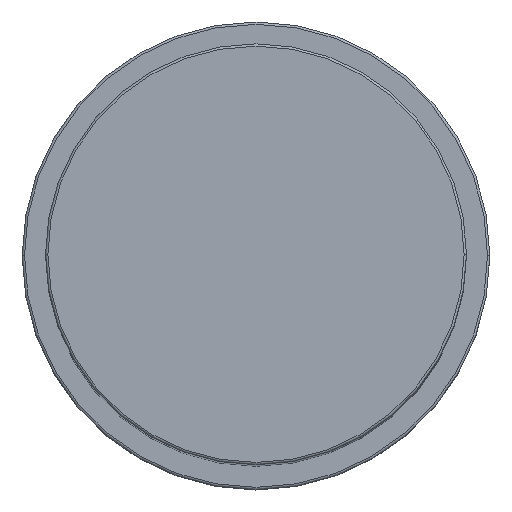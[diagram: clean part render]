
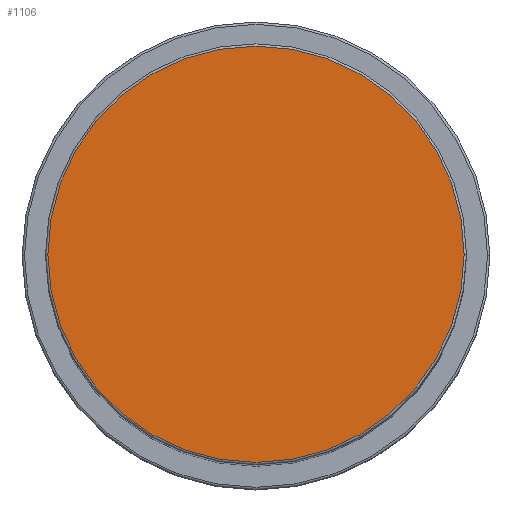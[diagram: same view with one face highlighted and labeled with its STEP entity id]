
A CAD part, top view. The second image highlights one B-rep face of the part: STEP entity #1106.
In plain terms, the highlighted planar face has unit normal (0, 0, 1).
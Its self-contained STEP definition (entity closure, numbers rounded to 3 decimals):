
#26 = DIRECTION ( 'NONE',  ( 1., 0., 0. ) ) ;
#113 = EDGE_CURVE ( 'NONE', #490, #1963, #1276, .T. ) ;
#160 = PLANE ( 'NONE',  #759 ) ;
#163 = EDGE_CURVE ( 'NONE', #1963, #490, #956, .T. ) ;
#279 = DIRECTION ( 'NONE',  ( 1., 0., 0. ) ) ;
#294 = AXIS2_PLACEMENT_3D ( 'NONE', #1734, #1242, #1863 ) ;
#302 = DIRECTION ( 'NONE',  ( 0., 0., 1. ) ) ;
#352 = CARTESIAN_POINT ( 'NONE',  ( 0., 0., 209. ) ) ;
#395 = CARTESIAN_POINT ( 'NONE',  ( 44.5, 0., 209. ) ) ;
#490 = VERTEX_POINT ( 'NONE', #585 ) ;
#574 = ORIENTED_EDGE ( 'NONE', *, *, #113, .T. ) ;
#585 = CARTESIAN_POINT ( 'NONE',  ( -44.5, 0., 209. ) ) ;
#612 = AXIS2_PLACEMENT_3D ( 'NONE', #2024, #302, #279 ) ;
#720 = EDGE_LOOP ( 'NONE', ( #1359, #574 ) ) ;
#759 = AXIS2_PLACEMENT_3D ( 'NONE', #352, #1792, #26 ) ;
#956 = CIRCLE ( 'NONE', #612, 44.5 ) ;
#1106 = ADVANCED_FACE ( 'NONE', ( #1517 ), #160, .T. ) ;
#1242 = DIRECTION ( 'NONE',  ( 0., 0., 1. ) ) ;
#1276 = CIRCLE ( 'NONE', #294, 44.5 ) ;
#1359 = ORIENTED_EDGE ( 'NONE', *, *, #163, .T. ) ;
#1517 = FACE_OUTER_BOUND ( 'NONE', #720, .T. ) ;
#1734 = CARTESIAN_POINT ( 'NONE',  ( 0., 0., 209. ) ) ;
#1792 = DIRECTION ( 'NONE',  ( 0., 0., 1. ) ) ;
#1863 = DIRECTION ( 'NONE',  ( 1., 0., 0. ) ) ;
#1963 = VERTEX_POINT ( 'NONE', #395 ) ;
#2024 = CARTESIAN_POINT ( 'NONE',  ( 0., 0., 209. ) ) ;
